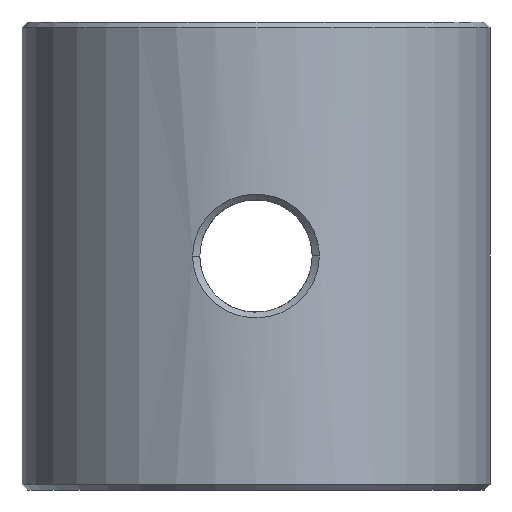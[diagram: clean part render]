
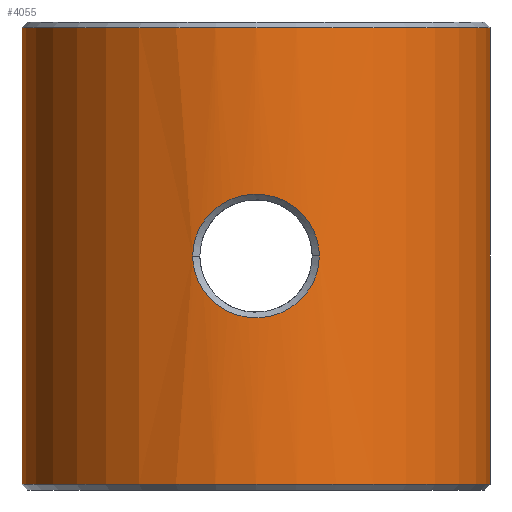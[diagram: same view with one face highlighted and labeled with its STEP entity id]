
A CAD part, left-side view. The second image highlights one B-rep face of the part: STEP entity #4055.
In plain terms, the highlighted cylindrical face has radius 12.5 mm (diameter 25 mm), a partial arc.
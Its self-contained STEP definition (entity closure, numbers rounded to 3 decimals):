
#1225=CARTESIAN_POINT('',(0.,0.,12.2));
#1226=DIRECTION('',(0.,0.,1.));
#1227=DIRECTION('',(0.,1.,0.));
#1228=AXIS2_PLACEMENT_3D('',#1225,#1226,#1227);
#1230=DIRECTION('',(0.,0.,1.));
#1231=VECTOR('',#1230,24.4);
#1232=CARTESIAN_POINT('',(0.,-12.5,
-12.2));
#1233=LINE('',#1232,#1231);
#1234=CARTESIAN_POINT('',(0.,0.,-12.2));
#1235=DIRECTION('',(0.,0.,1.));
#1236=DIRECTION('',(0.,1.,0.));
#1237=AXIS2_PLACEMENT_3D('',#1234,#1235,#1236);
#1239=DIRECTION('',(0.,0.,1.));
#1240=VECTOR('',#1239,24.4);
#1241=CARTESIAN_POINT('',(0.,12.5,
-12.2));
#1242=LINE('',#1241,#1240);
#1243=CARTESIAN_POINT('',(-12.034,3.381,
0.));
#1244=CARTESIAN_POINT('',(-12.034,3.381,
0.209));
#1245=CARTESIAN_POINT('',(-12.045,3.341,
0.623));
#1246=CARTESIAN_POINT('',(-12.096,3.157,1.24));
#1247=CARTESIAN_POINT('',(-12.173,2.85,1.815));
#1248=CARTESIAN_POINT('',(-12.266,2.425,2.331));
#1249=CARTESIAN_POINT('',(-12.359,1.902,2.755));
#1250=CARTESIAN_POINT('',(-12.437,1.304,3.068));
#1251=CARTESIAN_POINT('',(-12.488,0.661,
3.258));
#1252=CARTESIAN_POINT('',(-12.506,-0.004,
3.321));
#1253=CARTESIAN_POINT('',(-12.488,-0.668,
3.257));
#1254=CARTESIAN_POINT('',(-12.436,-1.311,
3.065));
#1255=CARTESIAN_POINT('',(-12.358,-1.907,
2.752));
#1256=CARTESIAN_POINT('',(-12.265,-2.431,
2.325));
#1257=CARTESIAN_POINT('',(-12.172,-2.853,
1.811));
#1258=CARTESIAN_POINT('',(-12.095,-3.16,
1.232));
#1259=CARTESIAN_POINT('',(-12.045,-3.343,
0.614));
#1260=CARTESIAN_POINT('',(-12.034,-3.381,
0.206));
#1261=CARTESIAN_POINT('',(-12.034,-3.381,
0.));
#1263=CARTESIAN_POINT('',(-12.034,-3.381,
0.));
#1264=CARTESIAN_POINT('',(-12.034,-3.381,
-0.209));
#1265=CARTESIAN_POINT('',(-12.045,-3.341,
-0.623));
#1266=CARTESIAN_POINT('',(-12.096,-3.157,
-1.24));
#1267=CARTESIAN_POINT('',(-12.173,-2.85,
-1.815));
#1268=CARTESIAN_POINT('',(-12.266,-2.425,
-2.331));
#1269=CARTESIAN_POINT('',(-12.359,-1.902,
-2.755));
#1270=CARTESIAN_POINT('',(-12.437,-1.304,
-3.068));
#1271=CARTESIAN_POINT('',(-12.488,-0.661,
-3.258));
#1272=CARTESIAN_POINT('',(-12.506,0.004,
-3.321));
#1273=CARTESIAN_POINT('',(-12.488,0.668,
-3.257));
#1274=CARTESIAN_POINT('',(-12.436,1.311,
-3.065));
#1275=CARTESIAN_POINT('',(-12.358,1.907,
-2.752));
#1276=CARTESIAN_POINT('',(-12.265,2.431,
-2.325));
#1277=CARTESIAN_POINT('',(-12.172,2.853,
-1.811));
#1278=CARTESIAN_POINT('',(-12.095,3.16,
-1.232));
#1279=CARTESIAN_POINT('',(-12.045,3.343,
-0.614));
#1280=CARTESIAN_POINT('',(-12.034,3.381,
-0.206));
#1281=CARTESIAN_POINT('',(-12.034,3.381,
0.));
#2452=CARTESIAN_POINT('',(0.,12.5,12.2));
#2453=CARTESIAN_POINT('',(0.,-12.5,12.2));
#2454=VERTEX_POINT('',#2452);
#2455=VERTEX_POINT('',#2453);
#2456=CARTESIAN_POINT('',(0.,12.5,-12.2));
#2457=CARTESIAN_POINT('',(0.,-12.5,-12.2));
#2458=VERTEX_POINT('',#2456);
#2459=VERTEX_POINT('',#2457);
#2507=VERTEX_POINT('',#1243);
#2508=VERTEX_POINT('',#1261);
#4035=CARTESIAN_POINT('',(0.,0.,13.75));
#4036=DIRECTION('',(0.,0.,-1.));
#4037=DIRECTION('',(0.,-1.,0.));
#4038=AXIS2_PLACEMENT_3D('',#4035,#4036,#4037);
#4039=CYLINDRICAL_SURFACE('',#4038,12.5);
#4041=ORIENTED_EDGE('',*,*,#4040,.T.);
#4043=ORIENTED_EDGE('',*,*,#4042,.F.);
#4044=ORIENTED_EDGE('',*,*,#4025,.F.);
#4046=ORIENTED_EDGE('',*,*,#4045,.T.);
#4047=EDGE_LOOP('',(#4041,#4043,#4044,#4046));
#4048=FACE_OUTER_BOUND('',#4047,.F.);
#4050=ORIENTED_EDGE('',*,*,#4049,.F.);
#4052=ORIENTED_EDGE('',*,*,#4051,.F.);
#4053=EDGE_LOOP('',(#4050,#4052));
#4054=FACE_BOUND('',#4053,.F.);
#4055=ADVANCED_FACE('',(#4048,#4054),#4039,.T.);
#1229=CIRCLE('',#1228,12.5);
#1238=CIRCLE('',#1237,12.5);
#1262=B_SPLINE_CURVE_WITH_KNOTS('',3,(#1243,#1244,#1245,#1246,#1247,#1248,#1249,
#1250,#1251,#1252,#1253,#1254,#1255,#1256,#1257,#1258,#1259,#1260,#1261),
.UNSPECIFIED.,.F.,.F.,(4,1,1,1,1,1,1,1,1,1,1,1,1,1,1,1,4),(0.,
0.063,0.125,0.188,0.25,
0.313,0.375,0.438,0.5,
0.562,0.625,0.687,0.75,
0.812,0.875,0.937,1.),.UNSPECIFIED.);
#1282=B_SPLINE_CURVE_WITH_KNOTS('',3,(#1263,#1264,#1265,#1266,#1267,#1268,#1269,
#1270,#1271,#1272,#1273,#1274,#1275,#1276,#1277,#1278,#1279,#1280,#1281),
.UNSPECIFIED.,.F.,.F.,(4,1,1,1,1,1,1,1,1,1,1,1,1,1,1,1,4),(0.,
0.063,0.125,0.188,0.25,
0.313,0.375,0.438,0.5,
0.562,0.625,0.687,0.75,
0.812,0.875,0.937,1.),.UNSPECIFIED.);
#4025=EDGE_CURVE('',#2458,#2459,#1238,.T.);
#4040=EDGE_CURVE('',#2454,#2455,#1229,.T.);
#4042=EDGE_CURVE('',#2459,#2455,#1233,.T.);
#4045=EDGE_CURVE('',#2458,#2454,#1242,.T.);
#4049=EDGE_CURVE('',#2507,#2508,#1262,.T.);
#4051=EDGE_CURVE('',#2508,#2507,#1282,.T.);
